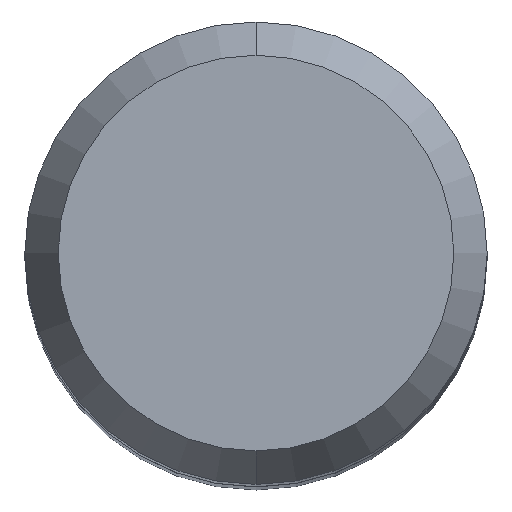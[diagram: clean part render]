
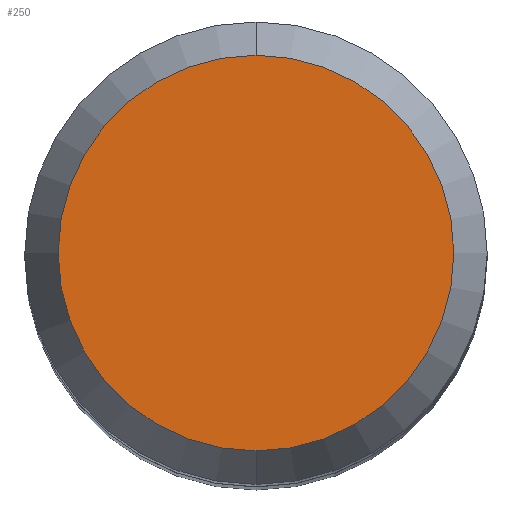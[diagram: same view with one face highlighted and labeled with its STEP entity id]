
A CAD part, top view. The second image highlights one B-rep face of the part: STEP entity #250.
In plain terms, the highlighted free-form (B-spline) face has degree [1, 1] with [2, 2] control points.
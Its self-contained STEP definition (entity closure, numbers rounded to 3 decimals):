
#37=CARTESIAN_POINT('',(0.,0.,0.));
#38=DIRECTION('',(0.,0.,1.));
#39=DIRECTION('',(0.,1.,0.));
#40=AXIS2_PLACEMENT_3D('',#37,#38,#39);
#42=CARTESIAN_POINT('',(0.,0.,0.));
#43=DIRECTION('',(0.,0.,-1.));
#44=DIRECTION('',(0.,1.,0.));
#45=AXIS2_PLACEMENT_3D('',#42,#43,#44);
#150=CARTESIAN_POINT('',(0.,8.557,0.));
#152=VERTEX_POINT('',#150);
#154=CARTESIAN_POINT('',(0.,-8.557,0.));
#156=VERTEX_POINT('',#154);
#241=CARTESIAN_POINT('',(8.9,8.899,0.));
#242=CARTESIAN_POINT('',(-8.9,8.899,0.));
#243=CARTESIAN_POINT('',(8.9,-8.899,0.));
#244=CARTESIAN_POINT('',(-8.9,-8.899,0.));
#245=B_SPLINE_SURFACE_WITH_KNOTS('',1,1,((#241,#242),(#243,#244)),.UNSPECIFIED.,
.F.,.F.,.F.,(2,2),(2,2),(-8.899,8.899),(-8.9,
8.9),.UNSPECIFIED.);
#246=ORIENTED_EDGE('',*,*,#226,.F.);
#247=ORIENTED_EDGE('',*,*,#194,.T.);
#248=EDGE_LOOP('',(#246,#247));
#249=FACE_OUTER_BOUND('',#248,.F.);
#41=CIRCLE('',#40,8.557);
#46=CIRCLE('',#45,8.557);
#194=EDGE_CURVE('',#152,#156,#46,.T.);
#226=EDGE_CURVE('',#152,#156,#41,.T.);
#250=ADVANCED_FACE('',(#249),#245,.F.);
